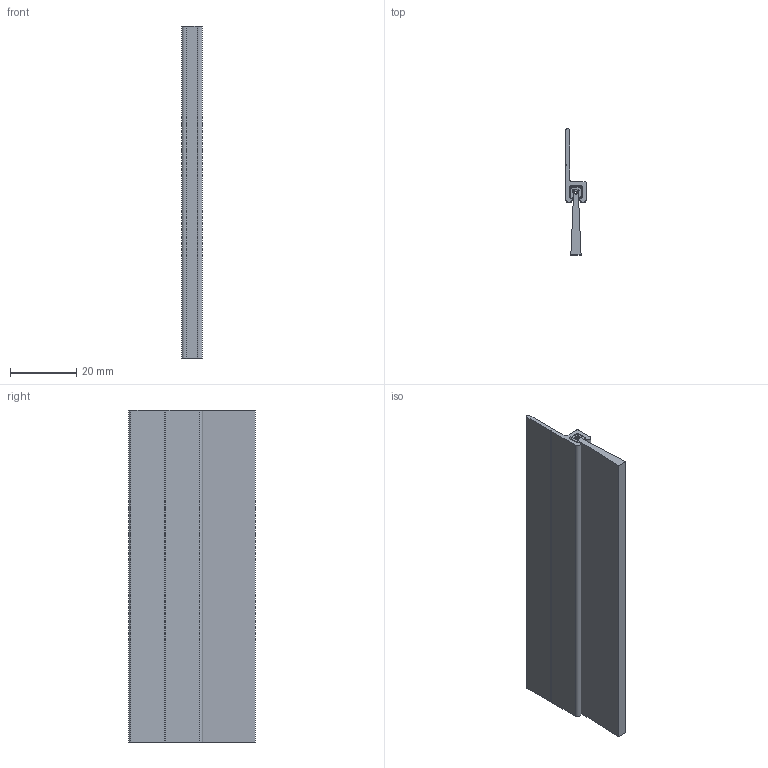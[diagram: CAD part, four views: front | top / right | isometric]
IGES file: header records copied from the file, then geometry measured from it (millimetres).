
Global section: file name: No Iges File Name specified; native system: Autodesk Inventor 2012; preprocessor: AutoDesk Inventor Iges Exporter R2012; author: anna.b; date: 20130830.142444; units: millimetre
Bounding box: 6.24 x 38.06 x 100 mm (x, y, z)
Volume: 9010.7 mm3; surface area: 13190.2 mm2
Topology: 3 solids, 3 shells, 55 faces, 147 edges, 98 vertices
Faces by surface type: plane 38, cylinder 9, revolution 8
